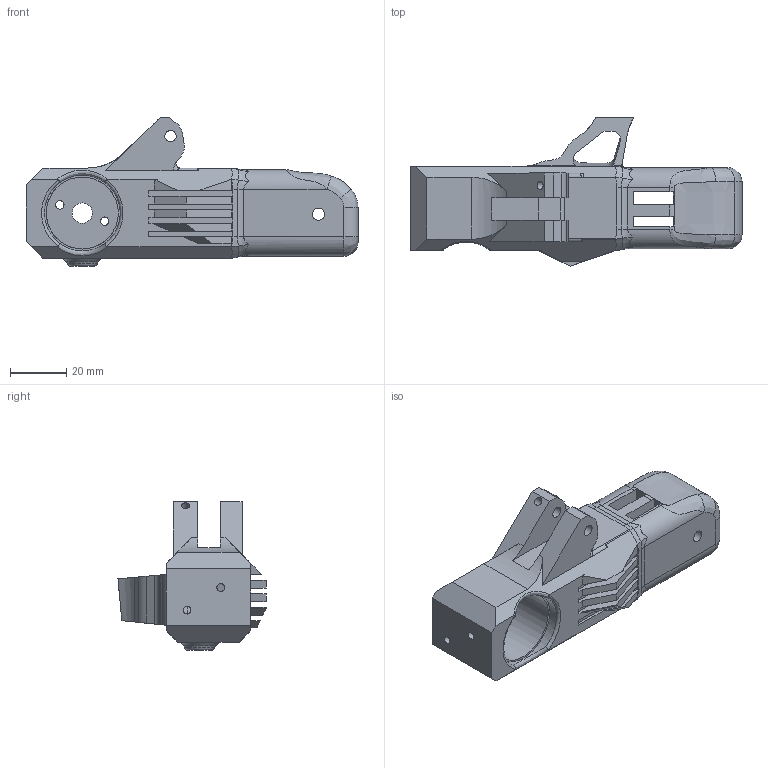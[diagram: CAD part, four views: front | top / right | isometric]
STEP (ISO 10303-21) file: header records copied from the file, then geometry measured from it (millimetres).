
FILE_DESCRIPTION(/* description */ (''),/* implementation_level */ '2;1');
FILE_NAME(/* name */ '前臂右.prt.stp',/* time_stamp */ '2021-03-21T20:48:49+08:00',/* author */ (''),/* organization */ (''),/* preprocessor_version */ 'ST-DEVELOPER v16',/* originating_system */ 'SIEMENS PLM Software NX 10.0',/* authorisation */ '');
FILE_SCHEMA (('CONFIG_CONTROL_DESIGN'));
Length unit declared in the file: millimetre
Products named in the file (1): 前臂右
Bounding box: 118 x 52.66 x 52.95 mm (x, y, z)
Volume: 82457.3 mm3; surface area: 27162.2 mm2
Topology: 1 solids, 1 shells, 212 faces, 588 edges, 379 vertices
Faces by surface type: plane 119, cylinder 49, bspline 37, torus 4, cone 2, extrusion 1
Full cylindrical faces by diameter (mm): 2.8 x2, 2.9 x4, 3 x2, 4 x2, 4.3 x1, 7.2 x1, 25.6 x1, 27 x2
Entity records: 7777 total; most frequent: CARTESIAN_POINT 2641, ORIENTED_EDGE 1110, DIRECTION 921, EDGE_CURVE 555, VERTEX_POINT 366, VECTOR 325, LINE 324, AXIS2_PLACEMENT_3D 298
